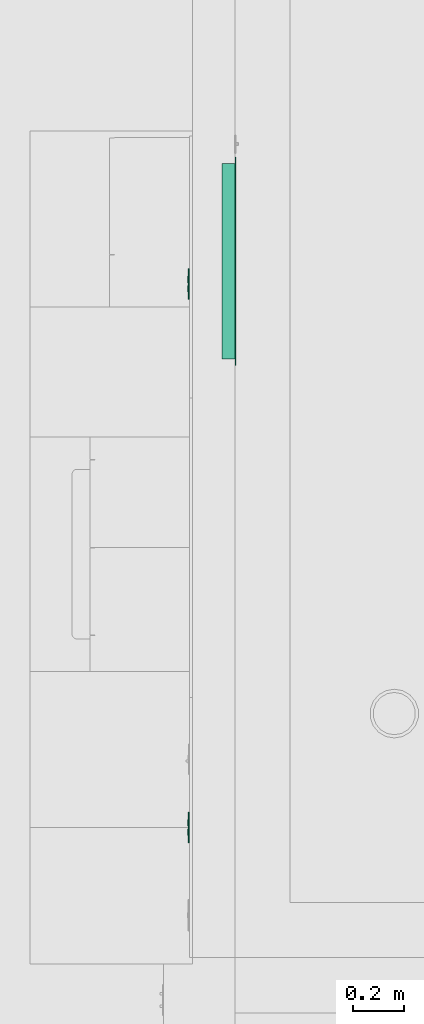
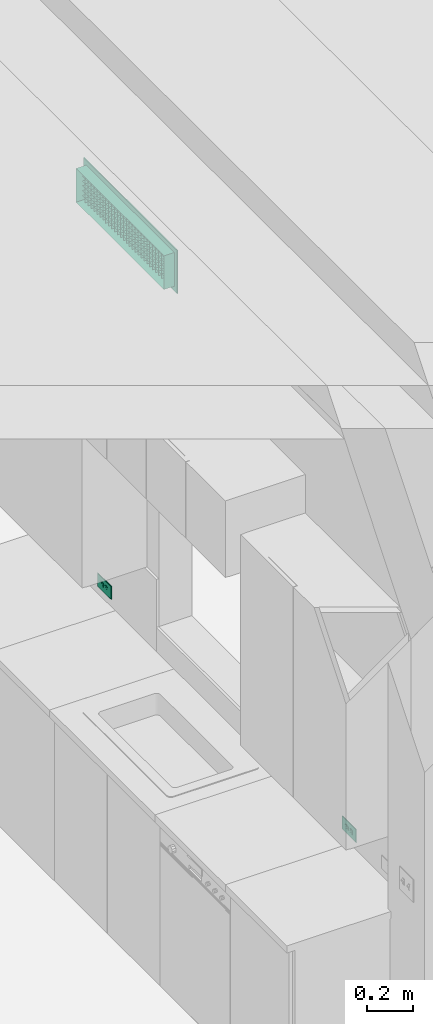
# One storey, part 15 of 103: 2 flow controllers, 1 distribution flow element.
"""IFC2X3 building model written with IfcOpenShell, lengths in inches."""

from ifc_helpers import new_model, entity, si_unit, converted_unit, derived_unit, money_unit, direction, frame, origin_with_axes, place, context, subcontext, project, spatial, open_shell, faceted_brep, surface_model, source, transform, mapped, type_object, element, save


model = new_model("IFC2X3")

# Units and contexts
model_context = context("Model", 3, precision=0.00039370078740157, world=origin_with_axes(), true_north=direction((0.0, 1.0)))
plan_context = context("Plan", 3, precision=0.00039370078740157, world=origin_with_axes(), true_north=direction((0.0, 1.0)))
body_context = subcontext(model_context, "Body", "Model", "MODEL_VIEW")
ifc_project = project(units=[converted_unit("LENGTHUNIT", "INCH", entity("IfcPositiveLengthMeasure", 0.0254), si_unit("LENGTHUNIT", "METRE"), dimensions=[1, 0, 0, 0, 0, 0, 0]), converted_unit("AREAUNIT", "SQUARE_FOOT", entity("IfcPositiveLengthMeasure", 0.09290304), si_unit("AREAUNIT", "SQUARE_METRE"), dimensions=[2, 0, 0, 0, 0, 0, 0]), si_unit("PLANEANGLEUNIT", "RADIAN"), si_unit("SOLIDANGLEUNIT", "STERADIAN"), money_unit("USD"), converted_unit("TIMEUNIT", "Year", entity("IfcTimeMeasure", 31557600.0), si_unit("TIMEUNIT", "SECOND"), dimensions=[0, 0, 1, 0, 0, 0, 0]), si_unit("MASSUNIT", "GRAM", prefix="KILO"), si_unit("THERMODYNAMICTEMPERATUREUNIT", "DEGREE_CELSIUS"), si_unit("LUMINOUSINTENSITYUNIT", "LUMEN"), si_unit("ENERGYUNIT", "JOULE", prefix="MEGA"), derived_unit("SPECIFICHEATCAPACITYUNIT", [(si_unit("ENERGYUNIT", "JOULE"), 1), (si_unit("MASSUNIT", "GRAM", prefix="KILO"), -1), (si_unit("THERMODYNAMICTEMPERATUREUNIT", "KELVIN"), -1)])], contexts=[model_context, plan_context])

# Site, building, storey
site_placement = place(None, origin_with_axes())
site = spatial("IfcSite", under=ifc_project, at=site_placement, Name="Site", CompositionType="ELEMENT")
building_placement = place(site_placement, origin_with_axes())
building = spatial("IfcBuilding", under=site, at=building_placement, Name="Building", CompositionType="ELEMENT")
storey_placement = place(building_placement, frame((0.0, 0.0, 127.9999999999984), z_axis=(0.0, 0.0, 1.0), x_axis=(1.0, 0.0, 0.0)))
storey = spatial("IfcBuildingStorey", under=building, at=storey_placement, Name="Second Floor", CompositionType="ELEMENT", Elevation=128.0)

# Flow controllers
switching_device_type = type_object("IfcSwitchingDeviceType", Name="Outlet 1 US", PredefinedType="NOTDEFINED")
shared_shape_1 = source(origin_with_axes(), body_context, "Body", "Brep", [
    faceted_brep([(1.18110236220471, -0.03444881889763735, 0.3937007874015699), (0.708661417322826, -0.03444881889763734, 0.5436477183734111), (0.708661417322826, -0.2165354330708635, 0.5436477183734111), (1.18110236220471, -0.2165354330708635, 0.3937007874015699), (1.18110236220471, -0.0344488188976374, -0.3937007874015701), (0.708661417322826, -0.03444881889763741, -0.543647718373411), (0.2362204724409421, -0.0344488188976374, -0.3937007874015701), (0.2362204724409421, -0.03444881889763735, 0.3937007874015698), (0.7086614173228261, -0.03444881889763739, -0.196850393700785), (0.472440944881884, -0.03444881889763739, -0.196850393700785), (0.472440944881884, -0.03444881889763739, -0.275590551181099), (0.7086614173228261, -0.03444881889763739, -0.275590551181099), (0.7086614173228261, -0.03444881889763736, 0.196850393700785), (0.7086614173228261, -0.03444881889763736, 0.275590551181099), (0.472440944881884, -0.03444881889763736, 0.275590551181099), (0.472440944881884, -0.03444881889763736, 0.196850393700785), (1.102362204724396, -0.03444881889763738, -0.07874015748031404), (1.102362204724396, -0.03444881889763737, 0.07874015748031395), (1.023622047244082, -0.03444881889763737, 0.07874015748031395), (0.984251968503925, -0.03444881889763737, 0.06819097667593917), (0.9554310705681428, -0.03444881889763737, 0.03937007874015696), (0.944881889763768, -0.03444881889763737, 0.0), (0.9554310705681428, -0.03444881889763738, -0.03937007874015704), (0.984251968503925, -0.03444881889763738, -0.06819097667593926), (1.023622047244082, -0.03444881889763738, -0.07874015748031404), (0.2362204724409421, -0.2165354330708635, 0.3937007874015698), (0.2362204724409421, -0.2165354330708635, -0.3937007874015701), (0.708661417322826, -0.2165354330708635, -0.543647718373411), (1.18110236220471, -0.2165354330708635, -0.3937007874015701), (0.7086614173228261, -0.2165354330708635, -0.196850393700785), (0.7086614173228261, -0.2165354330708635, -0.275590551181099), (0.472440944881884, -0.2165354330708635, -0.275590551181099), (0.472440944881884, -0.2165354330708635, -0.196850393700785), (0.7086614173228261, -0.2165354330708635, 0.196850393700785), (0.472440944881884, -0.2165354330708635, 0.196850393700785), (0.472440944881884, -0.2165354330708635, 0.275590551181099), (0.7086614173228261, -0.2165354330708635, 0.275590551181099), (1.102362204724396, -0.2165354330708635, -0.07874015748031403), (1.023622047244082, -0.2165354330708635, -0.07874015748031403), (0.984251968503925, -0.2165354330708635, -0.06819097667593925), (0.9554310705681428, -0.2165354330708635, -0.03937007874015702), (0.944881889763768, -0.2165354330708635, 0.0), (0.9554310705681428, -0.2165354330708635, 0.03937007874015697), (0.984251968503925, -0.2165354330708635, 0.06819097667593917), (1.023622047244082, -0.2165354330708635, 0.07874015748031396), (1.102362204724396, -0.2165354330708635, 0.07874015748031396)], [[[0, 1, 2, 3]], [[0, 4, 5, 6, 7, 1], [8, 9, 10, 11], [12, 13, 14, 15], [16, 17, 18, 19, 20, 21, 22, 23, 24]], [[1, 7, 25, 2]], [[3, 2, 25, 26, 27, 28], [29, 30, 31, 32], [33, 34, 35, 36], [37, 38, 39, 40, 41, 42, 43, 44, 45]], [[4, 0, 3, 28]], [[5, 4, 28, 27]], [[6, 5, 27, 26]], [[7, 6, 26, 25]], [[9, 8, 29, 32]], [[10, 9, 32, 31]], [[11, 10, 31, 30]], [[8, 11, 30, 29]], [[13, 12, 33, 36]], [[14, 13, 36, 35]], [[15, 14, 35, 34]], [[12, 15, 34, 33]], [[17, 16, 37, 45]], [[18, 17, 45, 44]], [[19, 18, 44, 43]], [[20, 19, 43, 42]], [[21, 20, 42, 41]], [[22, 21, 41, 40]], [[23, 22, 40, 39]], [[24, 23, 39, 38]], [[16, 24, 38, 37]]]),
    faceted_brep([(-0.2362204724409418, -0.03444881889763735, 0.3937007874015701), (-0.708661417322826, -0.03444881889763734, 0.5436477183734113), (-0.708661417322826, -0.2165354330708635, 0.5436477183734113), (-0.2362204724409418, -0.2165354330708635, 0.3937007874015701), (-0.2362204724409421, -0.0344488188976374, -0.39370078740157), (-0.708661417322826, -0.03444881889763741, -0.5436477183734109), (-1.18110236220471, -0.0344488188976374, -0.3937007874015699), (-1.18110236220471, -0.03444881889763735, 0.39370078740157), (-0.7086614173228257, -0.03444881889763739, -0.196850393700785), (-0.9448818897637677, -0.03444881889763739, -0.196850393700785), (-0.9448818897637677, -0.03444881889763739, -0.275590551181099), (-0.7086614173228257, -0.03444881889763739, -0.275590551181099), (-0.7086614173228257, -0.03444881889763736, 0.196850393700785), (-0.7086614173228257, -0.03444881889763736, 0.275590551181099), (-0.9448818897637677, -0.03444881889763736, 0.275590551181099), (-0.9448818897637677, -0.03444881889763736, 0.196850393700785), (-0.3149606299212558, -0.03444881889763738, -0.07874015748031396), (-0.3149606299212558, -0.03444881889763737, 0.07874015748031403), (-0.3937007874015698, -0.03444881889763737, 0.07874015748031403), (-0.4330708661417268, -0.03444881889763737, 0.06819097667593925), (-0.461891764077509, -0.03444881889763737, 0.03937007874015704), (-0.4724409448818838, -0.03444881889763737, 0.0), (-0.461891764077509, -0.03444881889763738, -0.03937007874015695), (-0.4330708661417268, -0.03444881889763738, -0.06819097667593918), (-0.3937007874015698, -0.03444881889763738, -0.07874015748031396), (-1.18110236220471, -0.2165354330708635, 0.39370078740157), (-1.18110236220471, -0.2165354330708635, -0.3937007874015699), (-0.708661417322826, -0.2165354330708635, -0.5436477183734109), (-0.2362204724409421, -0.2165354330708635, -0.39370078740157), (-0.7086614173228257, -0.2165354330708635, -0.196850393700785), (-0.7086614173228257, -0.2165354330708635, -0.275590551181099), (-0.9448818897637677, -0.2165354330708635, -0.275590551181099), (-0.9448818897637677, -0.2165354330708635, -0.196850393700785), (-0.7086614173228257, -0.2165354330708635, 0.196850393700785), (-0.9448818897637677, -0.2165354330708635, 0.196850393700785), (-0.9448818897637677, -0.2165354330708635, 0.275590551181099), (-0.7086614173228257, -0.2165354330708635, 0.275590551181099), (-0.3149606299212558, -0.2165354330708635, -0.07874015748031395), (-0.3937007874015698, -0.2165354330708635, -0.07874015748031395), (-0.4330708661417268, -0.2165354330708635, -0.06819097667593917), (-0.461891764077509, -0.2165354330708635, -0.03937007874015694), (-0.4724409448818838, -0.2165354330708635, 0.0), (-0.461891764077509, -0.2165354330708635, 0.03937007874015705), (-0.4330708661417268, -0.2165354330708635, 0.06819097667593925), (-0.3937007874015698, -0.2165354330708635, 0.07874015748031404), (-0.3149606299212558, -0.2165354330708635, 0.07874015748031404)], [[[0, 1, 2, 3]], [[0, 4, 5, 6, 7, 1], [8, 9, 10, 11], [12, 13, 14, 15], [16, 17, 18, 19, 20, 21, 22, 23, 24]], [[1, 7, 25, 2]], [[3, 2, 25, 26, 27, 28], [29, 30, 31, 32], [33, 34, 35, 36], [37, 38, 39, 40, 41, 42, 43, 44, 45]], [[4, 0, 3, 28]], [[5, 4, 28, 27]], [[6, 5, 27, 26]], [[7, 6, 26, 25]], [[9, 8, 29, 32]], [[10, 9, 32, 31]], [[11, 10, 31, 30]], [[8, 11, 30, 29]], [[13, 12, 33, 36]], [[14, 13, 36, 35]], [[15, 14, 35, 34]], [[12, 15, 34, 33]], [[17, 16, 37, 45]], [[18, 17, 45, 44]], [[19, 18, 44, 43]], [[20, 19, 43, 42]], [[21, 20, 42, 41]], [[22, 21, 41, 40]], [[23, 22, 40, 39]], [[24, 23, 39, 38]], [[16, 24, 38, 37]]]),
    faceted_brep([(2.327755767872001, -0.1377952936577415, -1.343503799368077), (2.327755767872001, -0.1377952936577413, 1.343503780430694), (-2.32775574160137, -0.1377952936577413, 1.343503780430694), (-2.32775574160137, -0.1377952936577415, -1.343503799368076), (1.18110236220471, -0.1377952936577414, -0.39370078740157), (0.708661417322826, -0.1377952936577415, -0.5436477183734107), (0.2362204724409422, -0.1377952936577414, -0.39370078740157), (0.2362204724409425, -0.1377952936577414, 0.3937007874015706), (0.7086614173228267, -0.1377952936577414, 0.5436477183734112), (1.18110236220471, -0.1377952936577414, 0.3937007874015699), (-1.181102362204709, -0.1377952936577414, 0.3937007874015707), (-0.7086614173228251, -0.1377952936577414, 0.5436477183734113), (-0.2362204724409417, -0.1377952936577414, 0.39370078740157), (-0.2362204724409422, -0.1377952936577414, -0.3937007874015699), (-0.708661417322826, -0.1377952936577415, -0.5436477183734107), (-1.18110236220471, -0.1377952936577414, -0.3937007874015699), (2.336671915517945, -0.1366214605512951, -1.352419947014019), (2.336671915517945, -0.1366214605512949, 1.352419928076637), (-2.336671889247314, -0.1366214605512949, 1.352419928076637), (-2.336671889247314, -0.1366214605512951, -1.352419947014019), (1.18110236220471, -0.0344488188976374, -0.39370078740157), (0.708661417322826, -0.0344488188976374, -0.5436477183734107), (0.2362204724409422, -0.0344488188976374, -0.39370078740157), (0.2362204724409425, -0.03444881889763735, 0.3937007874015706), (0.7086614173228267, -0.03444881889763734, 0.5436477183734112), (1.18110236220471, -0.03444881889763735, 0.3937007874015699), (-1.181102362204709, -0.03444881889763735, 0.3937007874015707), (-0.7086614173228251, -0.03444881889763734, 0.5436477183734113), (-0.2362204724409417, -0.03444881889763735, 0.39370078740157), (-0.2362204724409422, -0.0344488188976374, -0.3937007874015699), (-0.708661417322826, -0.0344488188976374, -0.5436477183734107), (-1.18110236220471, -0.0344488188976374, -0.3937007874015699), (2.352114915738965, -0.1277054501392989, -1.36786294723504), (2.352114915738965, -0.1277054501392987, 1.367862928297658), (-2.352114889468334, -0.1277054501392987, 1.367862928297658), (-2.352114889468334, -0.1277054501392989, -1.367862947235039), (2.361030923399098, -0.1122624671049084, -1.376778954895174), (2.361030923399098, -0.1122624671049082, 1.376778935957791), (-2.361030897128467, -0.1122624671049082, 1.376778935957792), (-2.361030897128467, -0.1122624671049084, -1.376778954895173), (2.36220473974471, -0.1033464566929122, -1.377952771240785), (2.36220473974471, -0.103346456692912, 1.377952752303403), (-2.362204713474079, -0.103346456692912, 1.377952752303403), (-2.362204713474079, -0.1033464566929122, -1.377952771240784), (2.36220472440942, 0.0, -1.377952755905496), (2.36220472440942, 0.0, 1.377952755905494), (-2.36220472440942, 0.0, 1.377952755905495), (-2.36220472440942, 0.0, -1.377952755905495)], [[[0, 1, 2, 3], [4, 5, 6, 7, 8, 9], [10, 11, 12, 13, 14, 15]], [[1, 0, 16, 17]], [[2, 1, 17, 18]], [[3, 2, 18, 19]], [[0, 3, 19, 16]], [[4, 20, 21, 5]], [[5, 21, 22, 6]], [[6, 22, 23, 7]], [[7, 23, 24, 8]], [[8, 24, 25, 9]], [[9, 25, 20, 4]], [[11, 10, 26, 27]], [[12, 11, 27, 28]], [[13, 12, 28, 29]], [[14, 13, 29, 30]], [[15, 14, 30, 31]], [[10, 15, 31, 26]], [[17, 16, 32, 33]], [[18, 17, 33, 34]], [[19, 18, 34, 35]], [[16, 19, 35, 32]], [[21, 20, 25, 24, 23, 22]], [[27, 26, 31, 30, 29, 28]], [[33, 32, 36, 37]], [[34, 33, 37, 38]], [[35, 34, 38, 39]], [[32, 35, 39, 36]], [[37, 36, 40, 41]], [[38, 37, 41, 42]], [[39, 38, 42, 43]], [[36, 39, 43, 40]], [[41, 40, 44, 45]], [[42, 41, 45, 46]], [[43, 42, 46, 47]], [[40, 43, 47, 44]], [[46, 45, 44, 47]]]),
])
for number, where, z_axis, x_axis, name in (
    (1, (154.4996647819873, 300.5007118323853, 38.99999999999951), (0.0, 0.0, 1.0), (2.019381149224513e-06, -0.9999999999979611, 0.0), "OBJ-05"),
    (2, (154.4998334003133, 217.000711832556, 38.99999999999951), (0.0, 0.0, 1.0), (2.019381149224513e-06, -0.9999999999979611, 0.0), "OBJ-05"),
):
    element("IfcFlowController", number, at=place(storey_placement, frame(where, z_axis=z_axis, x_axis=x_axis)), inside=storey, type_object=switching_device_type, Name=name, context=body_context, shape_type="MappedRepresentation", body=[
        mapped(shared_shape_1, transform((0.0, 0.0, 0.0))),
    ])

# Distribution flow element
valve_type = type_object("IfcValveType", Name="Sidewall Grille", PredefinedType="NOTDEFINED")
shared_shape_2 = source(origin_with_axes(), body_context, "Body", "SurfaceModel", [
    faceted_brep([(15.99987696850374, -0.1968503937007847, -4.499876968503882), (-15.99987696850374, -0.1968503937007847, -4.499876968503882), (-15.99987696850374, 0.0, -4.499876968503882), (15.99987696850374, 0.0, -4.499876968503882), (15.99987696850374, -0.1968503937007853, 4.499876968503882), (-15.99987696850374, -0.1968503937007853, 4.499876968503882), (15.01562499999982, -0.1968503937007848, -3.515624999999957), (-15.01562499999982, -0.1968503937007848, -3.515624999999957), (-15.01562499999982, -0.1968503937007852, 3.515624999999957), (15.01562499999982, -0.1968503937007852, 3.515624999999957), (-15.99987696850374, 0.0, 4.499876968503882), (15.99987696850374, 0.0, 4.499876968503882), (15.01562499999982, 0.0, -3.515624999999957), (15.01562499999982, 0.0, 3.515624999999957), (-15.01562499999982, 0.0, 3.515624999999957), (-15.01562499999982, 0.0, -3.515624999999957)], [[[0, 1, 2, 3]], [[0, 4, 5, 1], [6, 7, 8, 9]], [[1, 5, 10, 2]], [[3, 2, 10, 11], [12, 13, 14, 15]], [[4, 0, 3, 11]], [[5, 4, 11, 10]], [[7, 6, 12, 15]], [[8, 7, 15, 14]], [[9, 8, 14, 13]], [[6, 9, 13, 12]]]),
    surface_model("IfcShellBasedSurfaceModel", [(-14.97625492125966, -0.1968503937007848, -3.499999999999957), (14.97625492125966, -0.1968503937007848, -3.499999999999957), (14.97625492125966, 0.7874015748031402, -3.499999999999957), (-14.97625492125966, 0.7874015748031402, -3.499999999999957)], [open_shell([[[0, 1, 2, 3]]])]),
    surface_model("IfcShellBasedSurfaceModel", [(-14.97625492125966, -0.1968503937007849, -2.499999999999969), (14.97625492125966, -0.1968503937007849, -2.499999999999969), (14.97625492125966, 0.7874015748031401, -2.499999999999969), (-14.97625492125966, 0.7874015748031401, -2.499999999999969)], [open_shell([[[0, 1, 2, 3]]])]),
    surface_model("IfcShellBasedSurfaceModel", [(-14.97625492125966, -0.1968503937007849, -1.499999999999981), (14.97625492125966, -0.1968503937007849, -1.499999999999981), (14.97625492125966, 0.7874015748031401, -1.499999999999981), (-14.97625492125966, 0.7874015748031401, -1.499999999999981)], [open_shell([[[0, 1, 2, 3]]])]),
    surface_model("IfcShellBasedSurfaceModel", [(-14.97625492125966, -0.196850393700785, -0.499999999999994), (14.97625492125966, -0.196850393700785, -0.499999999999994), (14.97625492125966, 0.7874015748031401, -0.499999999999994), (-14.97625492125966, 0.7874015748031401, -0.499999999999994)], [open_shell([[[0, 1, 2, 3]]])]),
    surface_model("IfcShellBasedSurfaceModel", [(-14.97625492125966, -0.196850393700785, 0.499999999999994), (14.97625492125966, -0.196850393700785, 0.499999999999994), (14.97625492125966, 0.78740157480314, 0.499999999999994), (-14.97625492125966, 0.78740157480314, 0.499999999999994)], [open_shell([[[0, 1, 2, 3]]])]),
    surface_model("IfcShellBasedSurfaceModel", [(-14.97625492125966, -0.1968503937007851, 1.499999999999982), (14.97625492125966, -0.1968503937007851, 1.499999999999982), (14.97625492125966, 0.7874015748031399, 1.499999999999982), (-14.97625492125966, 0.7874015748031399, 1.499999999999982)], [open_shell([[[0, 1, 2, 3]]])]),
    surface_model("IfcShellBasedSurfaceModel", [(-14.97625492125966, -0.1968503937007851, 2.499999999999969), (14.97625492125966, -0.1968503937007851, 2.499999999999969), (14.97625492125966, 0.7874015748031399, 2.499999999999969), (-14.97625492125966, 0.7874015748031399, 2.499999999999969)], [open_shell([[[0, 1, 2, 3]]])]),
    surface_model("IfcShellBasedSurfaceModel", [(-14.97625492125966, -0.1968503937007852, 3.499999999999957), (14.97625492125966, -0.1968503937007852, 3.499999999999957), (14.97625492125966, 0.7874015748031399, 3.499999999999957), (-14.97625492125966, 0.7874015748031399, 3.499999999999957)], [open_shell([[[0, 1, 2, 3]]])]),
    surface_model("IfcShellBasedSurfaceModel", [(14.99999999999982, -0.1968503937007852, 3.4762549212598), (14.99999999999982, -0.1968503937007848, -3.4762549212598), (14.99999999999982, 0.7874015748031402, -3.4762549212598), (14.99999999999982, 0.7874015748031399, 3.4762549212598)], [open_shell([[[0, 1, 2, 3]]])]),
    surface_model("IfcShellBasedSurfaceModel", [(13.99999999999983, -0.1968503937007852, 3.4762549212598), (13.99999999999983, -0.1968503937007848, -3.4762549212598), (13.99999999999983, 0.7874015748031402, -3.4762549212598), (13.99999999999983, 0.7874015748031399, 3.4762549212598)], [open_shell([[[0, 1, 2, 3]]])]),
    surface_model("IfcShellBasedSurfaceModel", [(12.99999999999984, -0.1968503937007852, 3.4762549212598), (12.99999999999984, -0.1968503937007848, -3.4762549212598), (12.99999999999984, 0.7874015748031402, -3.4762549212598), (12.99999999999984, 0.7874015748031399, 3.4762549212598)], [open_shell([[[0, 1, 2, 3]]])]),
    surface_model("IfcShellBasedSurfaceModel", [(11.99999999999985, -0.1968503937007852, 3.4762549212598), (11.99999999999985, -0.1968503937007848, -3.4762549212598), (11.99999999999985, 0.7874015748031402, -3.4762549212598), (11.99999999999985, 0.7874015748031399, 3.4762549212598)], [open_shell([[[0, 1, 2, 3]]])]),
    surface_model("IfcShellBasedSurfaceModel", [(10.99999999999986, -0.1968503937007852, 3.4762549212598), (10.99999999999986, -0.1968503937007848, -3.4762549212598), (10.99999999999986, 0.7874015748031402, -3.4762549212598), (10.99999999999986, 0.7874015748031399, 3.4762549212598)], [open_shell([[[0, 1, 2, 3]]])]),
    surface_model("IfcShellBasedSurfaceModel", [(9.999999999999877, -0.1968503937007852, 3.4762549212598), (9.999999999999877, -0.1968503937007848, -3.4762549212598), (9.999999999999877, 0.7874015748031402, -3.4762549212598), (9.999999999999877, 0.7874015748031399, 3.4762549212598)], [open_shell([[[0, 1, 2, 3]]])]),
    surface_model("IfcShellBasedSurfaceModel", [(8.999999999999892, -0.1968503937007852, 3.4762549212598), (8.999999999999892, -0.1968503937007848, -3.4762549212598), (8.999999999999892, 0.7874015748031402, -3.4762549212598), (8.999999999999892, 0.7874015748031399, 3.4762549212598)], [open_shell([[[0, 1, 2, 3]]])]),
    surface_model("IfcShellBasedSurfaceModel", [(7.999999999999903, -0.1968503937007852, 3.4762549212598), (7.999999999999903, -0.1968503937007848, -3.4762549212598), (7.999999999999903, 0.7874015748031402, -3.4762549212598), (7.999999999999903, 0.7874015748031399, 3.4762549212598)], [open_shell([[[0, 1, 2, 3]]])]),
    surface_model("IfcShellBasedSurfaceModel", [(6.999999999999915, -0.1968503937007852, 3.4762549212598), (6.999999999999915, -0.1968503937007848, -3.4762549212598), (6.999999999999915, 0.7874015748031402, -3.4762549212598), (6.999999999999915, 0.7874015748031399, 3.4762549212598)], [open_shell([[[0, 1, 2, 3]]])]),
    surface_model("IfcShellBasedSurfaceModel", [(5.999999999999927, -0.1968503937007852, 3.4762549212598), (5.999999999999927, -0.1968503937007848, -3.4762549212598), (5.999999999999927, 0.7874015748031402, -3.4762549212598), (5.999999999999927, 0.7874015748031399, 3.4762549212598)], [open_shell([[[0, 1, 2, 3]]])]),
    surface_model("IfcShellBasedSurfaceModel", [(4.999999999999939, -0.1968503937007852, 3.4762549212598), (4.999999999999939, -0.1968503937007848, -3.4762549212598), (4.999999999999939, 0.7874015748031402, -3.4762549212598), (4.999999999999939, 0.7874015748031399, 3.4762549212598)], [open_shell([[[0, 1, 2, 3]]])]),
    surface_model("IfcShellBasedSurfaceModel", [(3.999999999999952, -0.1968503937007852, 3.4762549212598), (3.999999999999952, -0.1968503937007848, -3.4762549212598), (3.999999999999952, 0.7874015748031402, -3.4762549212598), (3.999999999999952, 0.7874015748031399, 3.4762549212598)], [open_shell([[[0, 1, 2, 3]]])]),
    surface_model("IfcShellBasedSurfaceModel", [(2.999999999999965, -0.1968503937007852, 3.4762549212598), (2.999999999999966, -0.1968503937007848, -3.4762549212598), (2.999999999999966, 0.7874015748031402, -3.4762549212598), (2.999999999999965, 0.7874015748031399, 3.4762549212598)], [open_shell([[[0, 1, 2, 3]]])]),
    surface_model("IfcShellBasedSurfaceModel", [(1.999999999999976, -0.1968503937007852, 3.4762549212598), (1.999999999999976, -0.1968503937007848, -3.4762549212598), (1.999999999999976, 0.7874015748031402, -3.4762549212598), (1.999999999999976, 0.7874015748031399, 3.4762549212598)], [open_shell([[[0, 1, 2, 3]]])]),
    surface_model("IfcShellBasedSurfaceModel", [(0.9999999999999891, -0.1968503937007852, 3.4762549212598), (0.9999999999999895, -0.1968503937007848, -3.4762549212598), (0.9999999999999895, 0.7874015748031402, -3.4762549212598), (0.9999999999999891, 0.7874015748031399, 3.4762549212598)], [open_shell([[[0, 1, 2, 3]]])]),
    surface_model("IfcShellBasedSurfaceModel", [(0.0, -0.1968503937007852, 3.4762549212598), (0.0, -0.1968503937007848, -3.4762549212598), (0.0, 0.7874015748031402, -3.4762549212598), (0.0, 0.7874015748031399, 3.4762549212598)], [open_shell([[[0, 1, 2, 3]]])]),
    surface_model("IfcShellBasedSurfaceModel", [(-0.9999999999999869, -0.1968503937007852, 3.4762549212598), (-0.9999999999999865, -0.1968503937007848, -3.4762549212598), (-0.9999999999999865, 0.7874015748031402, -3.4762549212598), (-0.9999999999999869, 0.7874015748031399, 3.4762549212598)], [open_shell([[[0, 1, 2, 3]]])]),
    surface_model("IfcShellBasedSurfaceModel", [(-1.999999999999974, -0.1968503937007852, 3.4762549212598), (-1.999999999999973, -0.1968503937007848, -3.4762549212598), (-1.999999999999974, 0.7874015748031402, -3.4762549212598), (-1.999999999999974, 0.7874015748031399, 3.4762549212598)], [open_shell([[[0, 1, 2, 3]]])]),
    surface_model("IfcShellBasedSurfaceModel", [(-2.999999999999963, -0.1968503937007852, 3.4762549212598), (-2.999999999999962, -0.1968503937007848, -3.4762549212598), (-2.999999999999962, 0.7874015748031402, -3.4762549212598), (-2.999999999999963, 0.7874015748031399, 3.4762549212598)], [open_shell([[[0, 1, 2, 3]]])]),
    surface_model("IfcShellBasedSurfaceModel", [(-3.99999999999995, -0.1968503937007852, 3.4762549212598), (-3.999999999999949, -0.1968503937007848, -3.4762549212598), (-3.999999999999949, 0.7874015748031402, -3.4762549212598), (-3.99999999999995, 0.7874015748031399, 3.4762549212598)], [open_shell([[[0, 1, 2, 3]]])]),
    surface_model("IfcShellBasedSurfaceModel", [(-4.999999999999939, -0.1968503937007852, 3.4762549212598), (-4.999999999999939, -0.1968503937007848, -3.4762549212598), (-4.999999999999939, 0.7874015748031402, -3.4762549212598), (-4.999999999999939, 0.7874015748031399, 3.4762549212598)], [open_shell([[[0, 1, 2, 3]]])]),
    surface_model("IfcShellBasedSurfaceModel", [(-5.999999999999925, -0.1968503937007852, 3.4762549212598), (-5.999999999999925, -0.1968503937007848, -3.4762549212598), (-5.999999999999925, 0.7874015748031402, -3.4762549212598), (-5.999999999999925, 0.7874015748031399, 3.4762549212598)], [open_shell([[[0, 1, 2, 3]]])]),
    surface_model("IfcShellBasedSurfaceModel", [(-6.999999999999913, -0.1968503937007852, 3.4762549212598), (-6.999999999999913, -0.1968503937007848, -3.4762549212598), (-6.999999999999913, 0.7874015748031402, -3.4762549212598), (-6.999999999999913, 0.7874015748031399, 3.4762549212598)], [open_shell([[[0, 1, 2, 3]]])]),
    surface_model("IfcShellBasedSurfaceModel", [(-7.9999999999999, -0.1968503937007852, 3.4762549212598), (-7.9999999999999, -0.1968503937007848, -3.4762549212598), (-7.9999999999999, 0.7874015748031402, -3.4762549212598), (-7.9999999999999, 0.7874015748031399, 3.4762549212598)], [open_shell([[[0, 1, 2, 3]]])]),
    surface_model("IfcShellBasedSurfaceModel", [(-8.999999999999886, -0.1968503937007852, 3.4762549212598), (-8.999999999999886, -0.1968503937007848, -3.4762549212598), (-8.999999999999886, 0.7874015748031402, -3.4762549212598), (-8.999999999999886, 0.7874015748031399, 3.4762549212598)], [open_shell([[[0, 1, 2, 3]]])]),
    surface_model("IfcShellBasedSurfaceModel", [(-9.999999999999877, -0.1968503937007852, 3.4762549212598), (-9.999999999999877, -0.1968503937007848, -3.4762549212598), (-9.999999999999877, 0.7874015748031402, -3.4762549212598), (-9.999999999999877, 0.7874015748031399, 3.4762549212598)], [open_shell([[[0, 1, 2, 3]]])]),
    surface_model("IfcShellBasedSurfaceModel", [(-10.99999999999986, -0.1968503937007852, 3.4762549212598), (-10.99999999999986, -0.1968503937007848, -3.4762549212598), (-10.99999999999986, 0.7874015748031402, -3.4762549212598), (-10.99999999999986, 0.7874015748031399, 3.4762549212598)], [open_shell([[[0, 1, 2, 3]]])]),
    surface_model("IfcShellBasedSurfaceModel", [(-11.99999999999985, -0.1968503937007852, 3.4762549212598), (-11.99999999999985, -0.1968503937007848, -3.4762549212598), (-11.99999999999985, 0.7874015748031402, -3.4762549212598), (-11.99999999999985, 0.7874015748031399, 3.4762549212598)], [open_shell([[[0, 1, 2, 3]]])]),
    surface_model("IfcShellBasedSurfaceModel", [(-12.99999999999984, -0.1968503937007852, 3.4762549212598), (-12.99999999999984, -0.1968503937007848, -3.4762549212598), (-12.99999999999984, 0.7874015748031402, -3.4762549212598), (-12.99999999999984, 0.7874015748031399, 3.4762549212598)], [open_shell([[[0, 1, 2, 3]]])]),
    surface_model("IfcShellBasedSurfaceModel", [(-13.99999999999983, -0.1968503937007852, 3.4762549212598), (-13.99999999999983, -0.1968503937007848, -3.4762549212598), (-13.99999999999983, 0.7874015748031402, -3.4762549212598), (-13.99999999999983, 0.7874015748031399, 3.4762549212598)], [open_shell([[[0, 1, 2, 3]]])]),
    surface_model("IfcShellBasedSurfaceModel", [(-14.99999999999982, -0.1968503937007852, 3.4762549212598), (-14.99999999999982, -0.1968503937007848, -3.4762549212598), (-14.99999999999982, 0.7874015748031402, -3.4762549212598), (-14.99999999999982, 0.7874015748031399, 3.4762549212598)], [open_shell([[[0, 1, 2, 3]]])]),
    surface_model("IfcShellBasedSurfaceModel", [(-15.01562499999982, 0.0, -3.515624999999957), (-15.01562499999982, 0.0, 3.515624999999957), (-15.01562499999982, 1.999999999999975, 3.515624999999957), (-15.01562499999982, 1.999999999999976, -3.515624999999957), (15.01562499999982, 0.0, 3.515624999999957), (15.01562499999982, 1.999999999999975, 3.515624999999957), (15.01562499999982, 0.0, -3.515624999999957), (15.01562499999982, 1.999999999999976, -3.515624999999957)], [open_shell([[[0, 1, 2, 3]], [[1, 4, 5, 2]], [[6, 0, 3, 7]], [[4, 6, 7, 5]]])]),
])
distribution_flow_element_placement = place(storey_placement, frame((161.4999999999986, 304.0001229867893, 109.4999999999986), z_axis=(0.0, 0.0, 1.0), x_axis=(0.0, 1.0, 0.0)))
element("IfcDistributionFlowElement", 3, at=distribution_flow_element_placement, inside=storey, type_object=valve_type, Name="FU - 004", context=body_context, shape_type="MappedRepresentation", body=[
    mapped(shared_shape_2, transform((0.0, 0.0, 0.0))),
])

save(model, "model.ifc")
